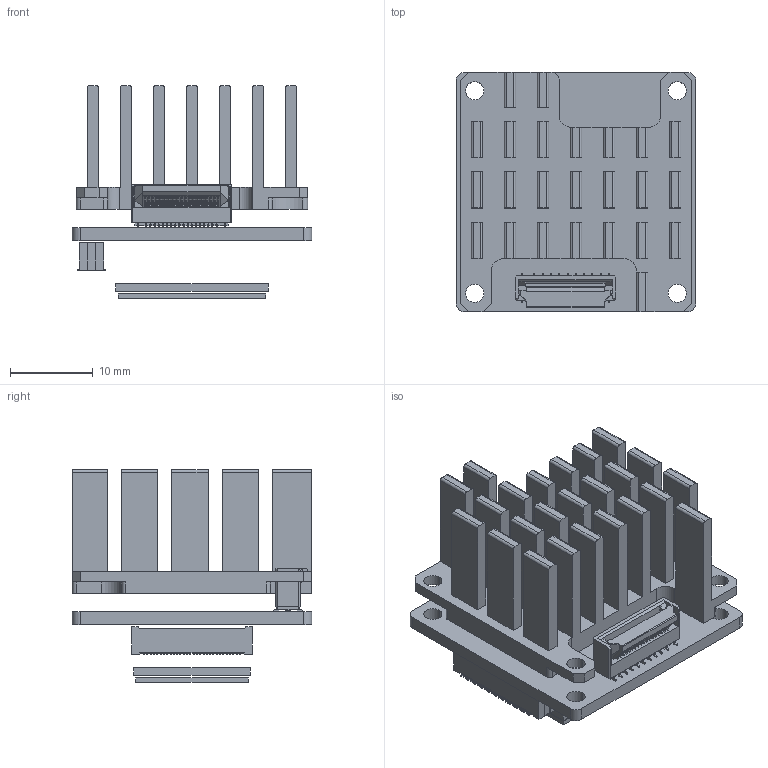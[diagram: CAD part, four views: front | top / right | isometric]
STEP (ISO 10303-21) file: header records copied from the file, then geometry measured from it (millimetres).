
FILE_DESCRIPTION((''),'2;1');
FILE_NAME('MV-CB020-61UM-S','2025-10-29T15:37:51',('zhangqianwen8'),(''),'CREO PARAMETRIC BY PTC INC, 2020044','CREO PARAMETRIC BY PTC INC, 2020044','');
FILE_SCHEMA(('CONFIG_CONTROL_DESIGN'));
Products named in the file (1): MV-CB020-61UM-S
Bounding box: 29 x 29 x 25.77 mm (x, y, z)
Volume: 5233.8 mm3; surface area: 8685.5 mm2
Topology: 5 solids, 5 shells, 3359 faces, 9942 edges, 6690 vertices
Faces by surface type: plane 2434, cylinder 901, cone 16, torus 4, bspline 4
Entity records: 113021 total; most frequent: CARTESIAN_POINT 20844, ORIENTED_EDGE 19884, DIRECTION 18666, EDGE_CURVE 9942, VECTOR 7824, LINE 7824, VERTEX_POINT 6690, AXIS2_PLACEMENT_3D 5421
